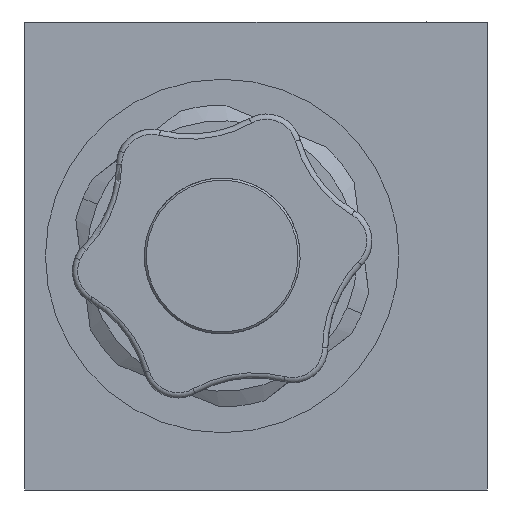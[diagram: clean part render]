
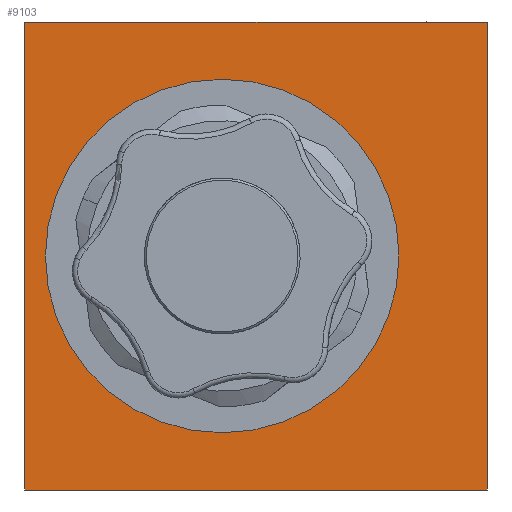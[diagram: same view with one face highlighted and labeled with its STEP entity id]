
A CAD part, left-side view. The second image highlights one B-rep face of the part: STEP entity #9103.
In plain terms, the highlighted planar face has unit normal (-1, 0, 0).
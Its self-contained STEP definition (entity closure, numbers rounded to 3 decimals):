
#60 = CARTESIAN_POINT ( 'NONE',  ( 0., 22.25, -22.5 ) ) ;
#437 = LINE ( 'NONE', #15477, #647 ) ;
#647 = VECTOR ( 'NONE', #15241, 1000. ) ;
#1103 = AXIS2_PLACEMENT_3D ( 'NONE', #7563, #7559, #7548 ) ;
#3062 = ORIENTED_EDGE ( 'NONE', *, *, #9148, .F. ) ;
#3087 = VERTEX_POINT ( 'NONE', #9776 ) ;
#3246 = CARTESIAN_POINT ( 'NONE',  ( 0., -22.25, -22.5 ) ) ;
#3657 = EDGE_CURVE ( 'NONE', #3087, #6694, #5959, .T. ) ;
#4006 = VECTOR ( 'NONE', #6847, 1000. ) ;
#4524 = VECTOR ( 'NONE', #5323, 1000. ) ;
#4532 = AXIS2_PLACEMENT_3D ( 'NONE', #13865, #13855, #13848 ) ;
#4724 = ORIENTED_EDGE ( 'NONE', *, *, #3657, .F. ) ;
#5323 = DIRECTION ( 'NONE',  ( 0., 1., 0. ) ) ;
#5638 = FACE_OUTER_BOUND ( 'NONE', #11834, .T. ) ;
#5655 = FACE_BOUND ( 'NONE', #11068, .T. ) ;
#5959 = CIRCLE ( 'NONE', #4532, 17. ) ;
#6399 = ORIENTED_EDGE ( 'NONE', *, *, #9558, .F. ) ;
#6530 = CARTESIAN_POINT ( 'NONE',  ( 0., -22.25, 22.5 ) ) ;
#6676 = CIRCLE ( 'NONE', #9720, 17. ) ;
#6694 = VERTEX_POINT ( 'NONE', #15496 ) ;
#6729 = VECTOR ( 'NONE', #15263, 1000. ) ;
#6820 = VERTEX_POINT ( 'NONE', #60 ) ;
#6847 = DIRECTION ( 'NONE',  ( 0., -1., 0. ) ) ;
#7548 = DIRECTION ( 'NONE',  ( 0., 0., 1. ) ) ;
#7559 = DIRECTION ( 'NONE',  ( -1., 0., 0. ) ) ;
#7563 = CARTESIAN_POINT ( 'NONE',  ( 0., 22.25, -22.5 ) ) ;
#7747 = PLANE ( 'NONE',  #1103 ) ;
#8163 = CARTESIAN_POINT ( 'NONE',  ( 0., -22.25, 22.5 ) ) ;
#8216 = LINE ( 'NONE', #15285, #6729 ) ;
#8265 = ORIENTED_EDGE ( 'NONE', *, *, #9584, .F. ) ;
#9103 = ADVANCED_FACE ( 'NONE', ( #5638, #5655 ), #7747, .T. ) ;
#9148 = EDGE_CURVE ( 'NONE', #13400, #15049, #10249, .T. ) ;
#9558 = EDGE_CURVE ( 'NONE', #10798, #6820, #10388, .T. ) ;
#9584 = EDGE_CURVE ( 'NONE', #15049, #10798, #8216, .T. ) ;
#9587 = EDGE_CURVE ( 'NONE', #6820, #13400, #437, .T. ) ;
#9596 = ORIENTED_EDGE ( 'NONE', *, *, #9603, .F. ) ;
#9603 = EDGE_CURVE ( 'NONE', #6694, #3087, #6676, .T. ) ;
#9720 = AXIS2_PLACEMENT_3D ( 'NONE', #15144, #15127, #15104 ) ;
#9776 = CARTESIAN_POINT ( 'NONE',  ( 0., 3.25, -17. ) ) ;
#10249 = LINE ( 'NONE', #6530, #4006 ) ;
#10388 = LINE ( 'NONE', #3246, #4524 ) ;
#10798 = VERTEX_POINT ( 'NONE', #14127 ) ;
#11068 = EDGE_LOOP ( 'NONE', ( #9596, #4724 ) ) ;
#11834 = EDGE_LOOP ( 'NONE', ( #6399, #8265, #3062, #13487 ) ) ;
#13400 = VERTEX_POINT ( 'NONE', #14550 ) ;
#13487 = ORIENTED_EDGE ( 'NONE', *, *, #9587, .F. ) ;
#13848 = DIRECTION ( 'NONE',  ( 0., 0., 1. ) ) ;
#13855 = DIRECTION ( 'NONE',  ( -1., 0., 0. ) ) ;
#13865 = CARTESIAN_POINT ( 'NONE',  ( 0., 3.25, 0. ) ) ;
#14127 = CARTESIAN_POINT ( 'NONE',  ( 0., -22.25, -22.5 ) ) ;
#14550 = CARTESIAN_POINT ( 'NONE',  ( 0., 22.25, 22.5 ) ) ;
#15049 = VERTEX_POINT ( 'NONE', #8163 ) ;
#15104 = DIRECTION ( 'NONE',  ( 0., 0., 1. ) ) ;
#15127 = DIRECTION ( 'NONE',  ( -1., 0., 0. ) ) ;
#15144 = CARTESIAN_POINT ( 'NONE',  ( 0., 3.25, 0. ) ) ;
#15241 = DIRECTION ( 'NONE',  ( 0., 0., 1. ) ) ;
#15263 = DIRECTION ( 'NONE',  ( 0., 0., -1. ) ) ;
#15285 = CARTESIAN_POINT ( 'NONE',  ( 0., -22.25, 22.5 ) ) ;
#15477 = CARTESIAN_POINT ( 'NONE',  ( 0., 22.25, 22.5 ) ) ;
#15496 = CARTESIAN_POINT ( 'NONE',  ( 0., 3.25, 17. ) ) ;
